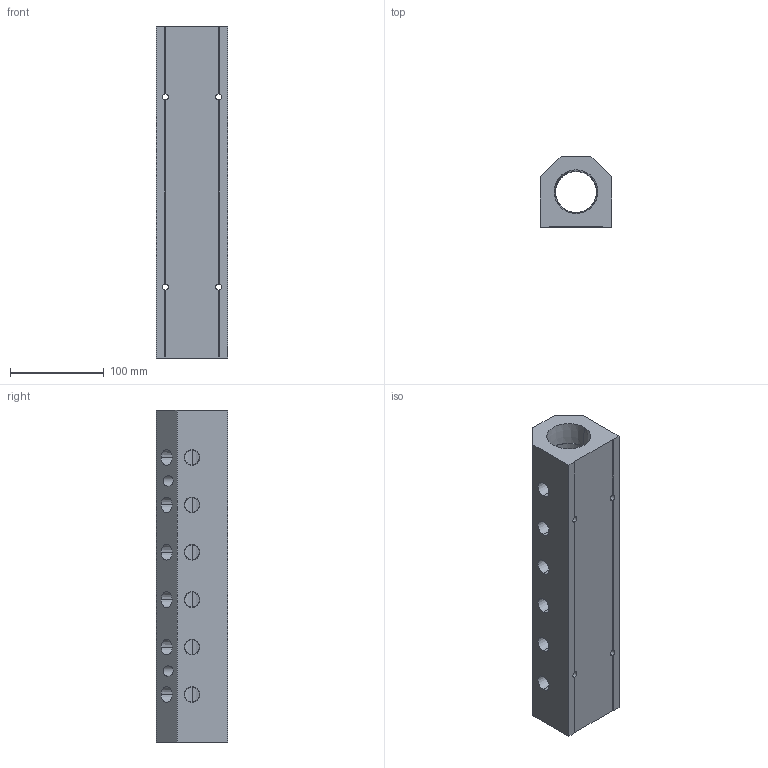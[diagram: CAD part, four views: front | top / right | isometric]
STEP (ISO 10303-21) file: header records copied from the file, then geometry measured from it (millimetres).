
FILE_DESCRIPTION (( 'STEP AP214' ), '1' );
FILE_NAME ('ALM6AB-N6N24-355B.step', '2022-02-07T09:08:20', ( '' ), ( '' ), 'SwSTEP 2.0', 'SolidWorks 2020', '' );
FILE_SCHEMA (( 'AUTOMOTIVE_DESIGN' ));
Length unit declared in the file: millimetre
Products named in the file (1): ALM6AB-N6N24-355B
Bounding box: 76.2 x 76.2 x 355 mm (x, y, z)
Volume: 1278848.3 mm3; surface area: 166541.7 mm2
Topology: 1 solids, 1 shells, 333 faces, 889 edges, 586 vertices
Faces by surface type: plane 211, bspline 76, cone 28, cylinder 18
Entity records: 19026 total; most frequent: CARTESIAN_POINT 8065, ORIENTED_EDGE 1778, DIRECTION 1273, EDGE_CURVE 889, LINE 637, VECTOR 637, VERTEX_POINT 586, EDGE_LOOP 395
